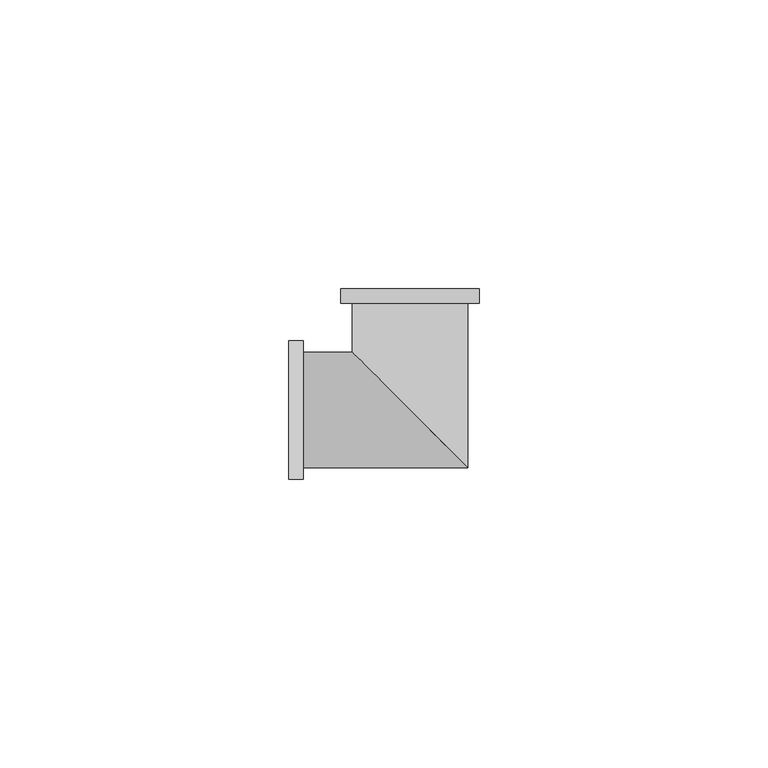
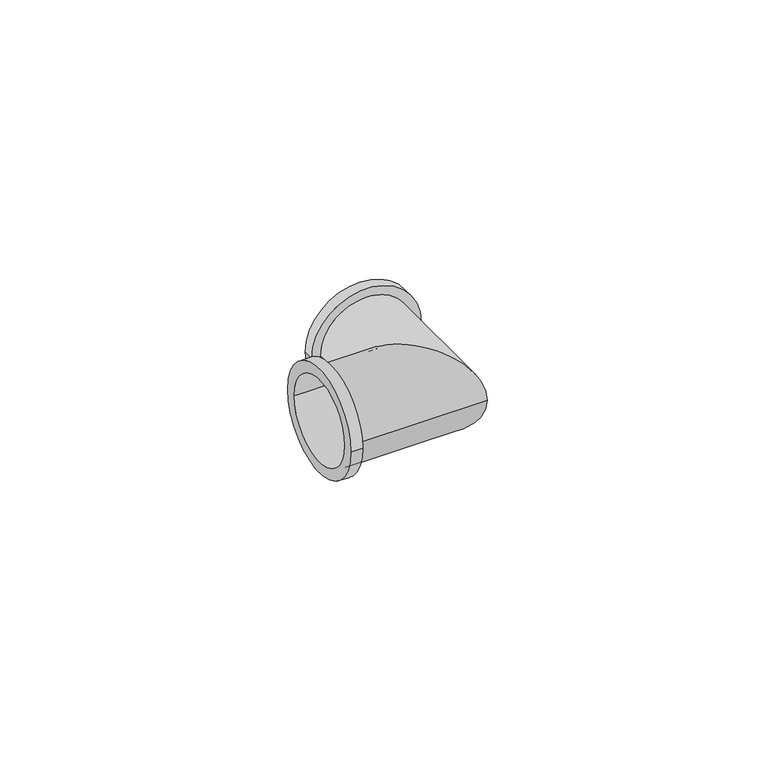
"""IFC4 building model written with IfcOpenShell, lengths in millimetres: pipe fitting geometry, БИР ПЕКС_КМП_Водорозетка : Водорозетка 1/2''x20 КМП."""

from ifc_helpers import new_model, si_unit, frame, origin, place, context, project, spatial, polyline, circle_curve, ellipse_curve, source, transform, mapped, element, save
from ifc_brep_helpers import plane_surface, cylinder_surface, revolved_surface, advanced_brep


def pipe_fitting_b718b052(model_context):
    return source(origin(), model_context, "Body", "AdvancedBrep", [
        advanced_brep(
        [(-21.0, -12.0, 0.0), (-21.0, 12.0, 0.0), (-21.0, -9.5, 0.0), (-21.0, 9.5, 0.0), (10.0, -10.0, 0.0), (-10.0, 10.0, 0.0), (-18.4507177, 10.0, 0.0), (-18.4507177, -10.0, 0.0), (-12.0, 21.0, 0.0), (12.0, 21.0, 0.0), (9.5, 21.0, 0.0), (-9.5, 21.0, 0.0), (10.0, 18.5, 0.0), (-10.0, 18.5, 0.0), (-18.4507177, -12.0, 0.0), (-18.4507177, 12.0, 0.0), (-12.0, 18.5, 0.0), (12.0, 18.5, 0.0), (-18.4507177, -9.5, 0.0), (9.5, -9.5, 0.0), (-9.5, 9.5, 0.0), (-18.4507177, 9.5, 0.0), (-9.5, 18.5, 0.0), (9.5, 18.5, 0.0)],
        [
            (0, 1, circle_curve(frame((-21.0, 0.0, 0.0), z_axis=(-1.0, 0.0, 0.0), x_axis=(0.0, 1.0, 0.0)), 12.0)),
            (1, 0, circle_curve(frame((-21.0, 0.0, 0.0), z_axis=(-1.0, 0.0, 0.0), x_axis=(0.0, 1.0, 0.0)), 12.0)),
            (2, 3, circle_curve(frame((-21.0, 0.0, 0.0), z_axis=(1.0, 0.0, 0.0), x_axis=(0.0, 1.0, 0.0)), 9.5)),
            (3, 2, circle_curve(frame((-21.0, 0.0, 0.0), z_axis=(1.0, 0.0, 0.0), x_axis=(0.0, 1.0, 0.0)), 9.5)),
            (4, 5, ellipse_curve(frame((0.0, 0.0, 0.0), z_axis=(-0.7071067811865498, -0.7071067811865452, 0.0), x_axis=(-0.7071067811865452, 0.7071067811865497, 0.0)), 14.1421356, 10.0)),
            (5, 6),
            (6, 7, circle_curve(frame((-18.4507177, 0.0, 0.0), z_axis=(1.0, 0.0, 0.0), x_axis=(0.0, 1.0, 0.0)), 10.0)),
            (7, 4),
            (5, 4, ellipse_curve(frame((0.0, 0.0, 0.0), z_axis=(-0.7071067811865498, -0.7071067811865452, 0.0), x_axis=(-0.7071067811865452, 0.7071067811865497, 0.0)), 14.1421356, 10.0)),
            (7, 6, circle_curve(frame((-18.4507177, 0.0, 0.0), z_axis=(1.0, 0.0, 0.0), x_axis=(0.0, 1.0, 0.0)), 10.0)),
            (8, 9, circle_curve(frame((0.0, 21.0, 0.0), z_axis=(0.0, 1.0, 0.0), x_axis=(1.0, 0.0, 0.0)), 12.0)),
            (9, 8, circle_curve(frame((0.0, 21.0, 0.0), z_axis=(0.0, 1.0, 0.0), x_axis=(1.0, 0.0, 0.0)), 12.0)),
            (10, 11, circle_curve(frame((0.0, 21.0, 0.0), z_axis=(0.0, -1.0, 0.0), x_axis=(-1.0, 0.0, 0.0)), 9.5)),
            (11, 10, circle_curve(frame((0.0, 21.0, 0.0), z_axis=(0.0, -1.0, 0.0), x_axis=(-1.0, 0.0, 0.0)), 9.5)),
            (4, 12),
            (12, 13, circle_curve(frame((0.0, 18.5, 0.0), z_axis=(0.0, -1.0, 0.0), x_axis=(-1.0, 0.0, 0.0)), 10.0)),
            (13, 5),
            (13, 12, circle_curve(frame((0.0, 18.5, 0.0), z_axis=(0.0, -1.0, 0.0), x_axis=(-1.0, 0.0, 0.0)), 10.0)),
            (14, 15, circle_curve(frame((-18.4507177, 0.0, 0.0), z_axis=(1.0, 0.0, 0.0), x_axis=(0.0, 1.0, 0.0)), 12.0)),
            (15, 14, circle_curve(frame((-18.4507177, 0.0, 0.0), z_axis=(1.0, 0.0, 0.0), x_axis=(0.0, 1.0, 0.0)), 12.0)),
            (14, 0),
            (1, 15),
            (16, 17, circle_curve(frame((0.0, 18.5, 0.0), z_axis=(0.0, -1.0, 0.0), x_axis=(1.0, 0.0, 0.0)), 12.0)),
            (17, 16, circle_curve(frame((0.0, 18.5, 0.0), z_axis=(0.0, -1.0, 0.0), x_axis=(1.0, 0.0, 0.0)), 12.0)),
            (16, 8),
            (9, 17),
            (2, 18),
            (18, 19),
            (19, 20, ellipse_curve(frame((0.0, 0.0, 0.0), z_axis=(0.7071067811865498, 0.7071067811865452, 0.0), x_axis=(0.7071067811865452, -0.7071067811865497, 0.0)), 13.4350288, 9.5)),
            (20, 21),
            (21, 3),
            (20, 19, ellipse_curve(frame((0.0, 0.0, 0.0), z_axis=(0.7071067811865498, 0.7071067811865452, 0.0), x_axis=(0.7071067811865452, -0.7071067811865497, 0.0)), 13.4350288, 9.5)),
            (11, 22),
            (22, 20),
            (19, 23),
            (23, 10),
        ],
        [
            plane_surface(frame((-21.0, 0.0, 0.0), z_axis=(-1.0, 0.0, 0.0), x_axis=(0.0, 0.0, 1.0))),
            cylinder_surface(frame((-21.0, 0.0, 0.0), z_axis=(-1.0, 0.0, 0.0), x_axis=(0.0, 1.0, 0.0)), 10.0),
            plane_surface(frame((0.0, 21.0, 0.0), z_axis=(0.0, 1.0, 0.0), x_axis=(0.0, 0.0, 1.0))),
            cylinder_surface(frame((0.0, 0.0, 0.0), z_axis=(0.0, -1.0, 0.0), x_axis=(-1.0, 0.0, 0.0)), 10.0),
            plane_surface(frame((-18.4507177, 12.0, 0.0), z_axis=(1.0, 0.0, 0.0), x_axis=(0.0, 0.0, 1.0))),
            cylinder_surface(frame((-21.0, 0.0, 0.0), z_axis=(1.0, 0.0, 0.0), x_axis=(0.0, 1.0, 0.0)), 12.0),
            plane_surface(frame((12.0, 18.5, 0.0), z_axis=(0.0, -1.0, 0.0), x_axis=(0.0, 0.0, 1.0))),
            cylinder_surface(frame((0.0, 21.0, 0.0), z_axis=(0.0, -1.0, 0.0), x_axis=(1.0, 0.0, 0.0)), 12.0),
            revolved_surface(polyline([(9.5, 9.5, 0.0), (-21.0, 9.5, 0.0)]), (-21.0, 0.0, 0.0), (1.0, 0.0, 0.0)),
            revolved_surface(polyline([(-9.5, 21.0, 0.0), (-9.5, -9.5, 0.0)]), (0.0, 0.0, 0.0), (0.0, 1.0, 0.0)),
        ],
        [
            (0, [[1, 2], [3, 4]]),
            (1, [[5, 6, 7, 8]]),
            (1, [[9, -8, 10, -6]]),
            (2, [[11, 12], [13, 14]]),
            (3, [[-5, 15, 16, 17]]),
            (3, [[-9, -17, 18, -15]]),
            (4, [[19, 20], [-7, -10]]),
            (5, [[-19, 21, -2, 22]]),
            (5, [[-20, -22, -1, -21]]),
            (6, [[23, 24], [-16, -18]]),
            (7, [[-23, 25, -12, 26]]),
            (7, [[-24, -26, -11, -25]]),
            (8, [[-3, 27, 28, 29, 30, 31]]),
            (8, [[-4, -31, -30, 32, -28, -27]]),
            (9, [[-14, 33, 34, -29, 35, 36]]),
            (9, [[-13, -36, -35, -32, -34, -33]]),
        ],
    ),
    ])


if __name__ == "__main__":
    model = new_model("IFC4")
    model_context = context("Model", 3, world=origin())
    ifc_project = project(units=[si_unit("LENGTHUNIT", "METRE", prefix="MILLI")], contexts=[model_context])
    site = spatial("IfcSite", under=ifc_project)
    building = spatial("IfcBuilding", under=site)
    placement = place(None, origin())
    pipe_fitting_shape = pipe_fitting_b718b052(model_context)
    element("IfcPipeFitting", 1, ObjectType="БИР ПЕКС_КМП_Водорозетка : Водорозетка 1/2''x20 КМП", at=placement, inside=building, context=model_context, shape_type="MappedRepresentation", body=[
        mapped(pipe_fitting_shape, transform((0.0, 0.0, 0.0), x_axis=(1.0, 0.0, 0.0), y_axis=(0.0, 1.0, 0.0), z_axis=(0.0, 0.0, 1.0))),
    ])
    save(model, "model.ifc")
